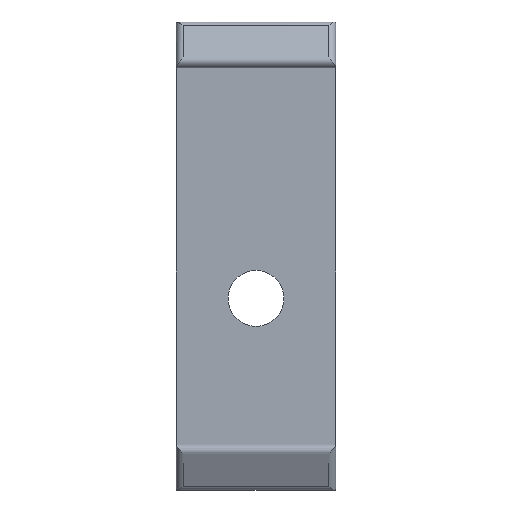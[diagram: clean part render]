
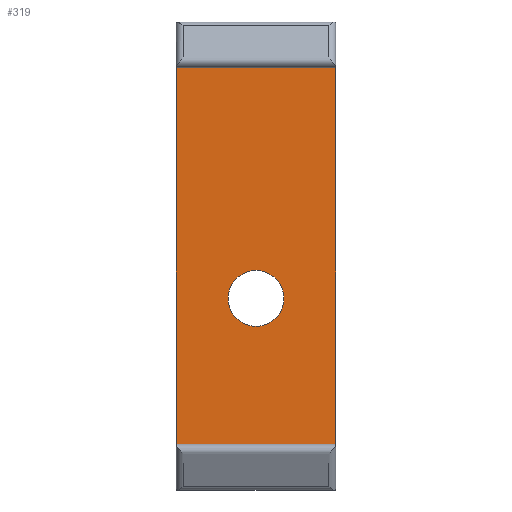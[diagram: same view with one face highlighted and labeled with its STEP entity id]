
A CAD part, top view. The second image highlights one B-rep face of the part: STEP entity #319.
In plain terms, the highlighted planar face has unit normal (0, 0, 1).
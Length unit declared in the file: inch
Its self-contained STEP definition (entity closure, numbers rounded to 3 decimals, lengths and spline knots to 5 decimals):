
#16=FACE_BOUND('',#60,.T.);
#24=PLANE('',#356);
#41=FACE_OUTER_BOUND('',#59,.T.);
#59=EDGE_LOOP('',(#285,#286,#287,#288));
#60=EDGE_LOOP('',(#289));
#71=CIRCLE('',#354,0.0825);
#90=LINE('',#493,#116);
#95=LINE('',#506,#121);
#105=LINE('',#537,#131);
#106=LINE('',#539,#132);
#116=VECTOR('',#395,0.3937);
#121=VECTOR('',#406,0.3937);
#131=VECTOR('',#440,0.3937);
#132=VECTOR('',#443,0.3937);
#145=VERTEX_POINT('',#490);
#146=VERTEX_POINT('',#492);
#151=VERTEX_POINT('',#504);
#160=VERTEX_POINT('',#535);
#161=VERTEX_POINT('',#542);
#180=EDGE_CURVE('',#146,#145,#90,.T.);
#187=EDGE_CURVE('',#145,#151,#95,.T.);
#203=EDGE_CURVE('',#151,#160,#105,.T.);
#204=EDGE_CURVE('',#160,#146,#106,.T.);
#205=EDGE_CURVE('',#161,#161,#71,.T.);
#285=ORIENTED_EDGE('',*,*,#204,.T.);
#286=ORIENTED_EDGE('',*,*,#180,.T.);
#287=ORIENTED_EDGE('',*,*,#187,.T.);
#288=ORIENTED_EDGE('',*,*,#203,.T.);
#289=ORIENTED_EDGE('',*,*,#205,.T.);
#319=ADVANCED_FACE('',(#41,#16),#24,.T.);
#354=AXIS2_PLACEMENT_3D('',#543,#448,#449);
#356=AXIS2_PLACEMENT_3D('',#546,#452,#453);
#395=DIRECTION('',(0.,-1.,0.));
#406=DIRECTION('',(1.,0.,0.));
#440=DIRECTION('',(0.,1.,0.));
#443=DIRECTION('',(-1.,0.,0.));
#448=DIRECTION('center_axis',(0.,0.,-1.));
#449=DIRECTION('ref_axis',(1.,0.,0.));
#452=DIRECTION('center_axis',(0.,0.,1.));
#453=DIRECTION('ref_axis',(1.,0.,0.));
#490=CARTESIAN_POINT('',(-0.235,-0.43,0.04));
#492=CARTESIAN_POINT('',(-0.235,0.68,0.04));
#493=CARTESIAN_POINT('',(-0.235,0.68,0.04));
#504=CARTESIAN_POINT('',(0.235,-0.43,0.04));
#506=CARTESIAN_POINT('',(0.235,-0.43,0.04));
#535=CARTESIAN_POINT('',(0.235,0.68,0.04));
#537=CARTESIAN_POINT('',(0.235,-0.43,0.04));
#539=CARTESIAN_POINT('',(0.235,0.68,0.04));
#542=CARTESIAN_POINT('',(-0.0825,0.,0.04));
#543=CARTESIAN_POINT('Origin',(0.,0.,0.04));
#546=CARTESIAN_POINT('Origin',(0.,0.125,0.04));
